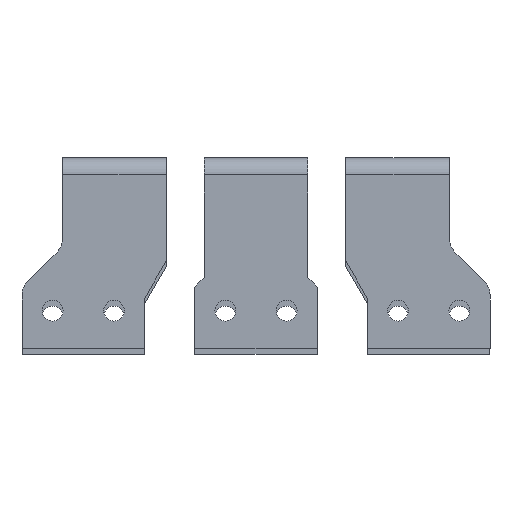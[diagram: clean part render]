
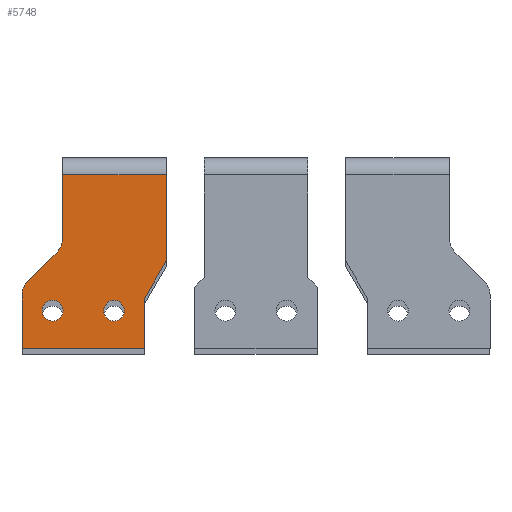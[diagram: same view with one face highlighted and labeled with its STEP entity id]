
A CAD part, front view. The second image highlights one B-rep face of the part: STEP entity #5748.
In plain terms, the highlighted planar face has unit normal (0, -1, 0).
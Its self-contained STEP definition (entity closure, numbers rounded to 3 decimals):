
#48 = EDGE_CURVE ( 'NONE', #7199, #2257, #6823, .T. ) ;
#96 = CARTESIAN_POINT ( 'NONE',  ( -102.5, -121.7, 29.75 ) ) ;
#197 = CARTESIAN_POINT ( 'NONE',  ( -42.5, -121.7, 29.75 ) ) ;
#243 = VERTEX_POINT ( 'NONE', #6584 ) ;
#252 = ORIENTED_EDGE ( 'NONE', *, *, #1837, .F. ) ;
#345 = LINE ( 'NONE', #2440, #909 ) ;
#625 = ORIENTED_EDGE ( 'NONE', *, *, #1152, .F. ) ;
#810 = CARTESIAN_POINT ( 'NONE',  ( -107.75, -121.7, -42.25 ) ) ;
#873 = CARTESIAN_POINT ( 'NONE',  ( -107.75, -121.7, -36.75 ) ) ;
#909 = VECTOR ( 'NONE', #1842, 1000. ) ;
#1083 = DIRECTION ( 'NONE',  ( -1., 0., 0. ) ) ;
#1126 = CARTESIAN_POINT ( 'NONE',  ( -107.75, -121.7, -47.75 ) ) ;
#1152 = EDGE_CURVE ( 'NONE', #2598, #4742, #1886, .T. ) ;
#1199 = CARTESIAN_POINT ( 'NONE',  ( -42.5, -121.7, -62.25 ) ) ;
#1247 = EDGE_CURVE ( 'NONE', #5120, #4547, #1875, .T. ) ;
#1291 = DIRECTION ( 'NONE',  ( 0., 0., 1. ) ) ;
#1373 = DIRECTION ( 'NONE',  ( 0., 0., -1. ) ) ;
#1393 = CARTESIAN_POINT ( 'NONE',  ( -105.429, -121.7, -11.179 ) ) ;
#1485 = DIRECTION ( 'NONE',  ( 0., 0., -1. ) ) ;
#1513 = LINE ( 'NONE', #7137, #5886 ) ;
#1645 = CARTESIAN_POINT ( 'NONE',  ( -42.5, -121.7, 32.75 ) ) ;
#1682 = ORIENTED_EDGE ( 'NONE', *, *, #5627, .F. ) ;
#1717 = VERTEX_POINT ( 'NONE', #3894 ) ;
#1739 = CARTESIAN_POINT ( 'NONE',  ( -75.25, -121.7, -42.25 ) ) ;
#1837 = EDGE_CURVE ( 'NONE', #2842, #2851, #2879, .T. ) ;
#1842 = DIRECTION ( 'NONE',  ( 0.707, 0., 0.707 ) ) ;
#1875 = CIRCLE ( 'NONE', #4664, 5.5 ) ;
#1886 = LINE ( 'NONE', #4127, #7096 ) ;
#1927 = CARTESIAN_POINT ( 'NONE',  ( -59., -121.7, -35.65 ) ) ;
#2000 = LINE ( 'NONE', #197, #3328 ) ;
#2034 = EDGE_CURVE ( 'NONE', #3508, #4742, #2000, .T. ) ;
#2044 = DIRECTION ( 'NONE',  ( 0., 0., -1. ) ) ;
#2064 = DIRECTION ( 'NONE',  ( 0., -1., 0. ) ) ;
#2135 = DIRECTION ( 'NONE',  ( 0., 0., -1. ) ) ;
#2182 = PLANE ( 'NONE',  #5953 ) ;
#2194 = AXIS2_PLACEMENT_3D ( 'NONE', #3341, #7451, #6233 ) ;
#2231 = DIRECTION ( 'NONE',  ( 0., -1., 0. ) ) ;
#2247 = ORIENTED_EDGE ( 'NONE', *, *, #3524, .F. ) ;
#2257 = VERTEX_POINT ( 'NONE', #6061 ) ;
#2440 = CARTESIAN_POINT ( 'NONE',  ( -124., -121.7, -29.75 ) ) ;
#2534 = EDGE_CURVE ( 'NONE', #2257, #243, #6371, .T. ) ;
#2598 = VERTEX_POINT ( 'NONE', #5932 ) ;
#2758 = LINE ( 'NONE', #7237, #6817 ) ;
#2842 = VERTEX_POINT ( 'NONE', #6140 ) ;
#2851 = VERTEX_POINT ( 'NONE', #7363 ) ;
#2879 = CIRCLE ( 'NONE', #4162, 5.5 ) ;
#2910 = VECTOR ( 'NONE', #2135, 1000. ) ;
#2919 = ORIENTED_EDGE ( 'NONE', *, *, #1247, .F. ) ;
#3070 = DIRECTION ( 'NONE',  ( -0.5, 0., -0.866 ) ) ;
#3091 = DIRECTION ( 'NONE',  ( -1., 0., 0. ) ) ;
#3118 = ORIENTED_EDGE ( 'NONE', *, *, #3522, .F. ) ;
#3138 = FACE_OUTER_BOUND ( 'NONE', #5629, .T. ) ;
#3258 = CARTESIAN_POINT ( 'NONE',  ( -114., -121.7, -33.892 ) ) ;
#3328 = VECTOR ( 'NONE', #3091, 1000. ) ;
#3330 = EDGE_CURVE ( 'NONE', #2598, #7344, #4818, .T. ) ;
#3341 = CARTESIAN_POINT ( 'NONE',  ( -112.5, -121.7, -4.108 ) ) ;
#3360 = LINE ( 'NONE', #6754, #2910 ) ;
#3378 = DIRECTION ( 'NONE',  ( 0., 1., 0. ) ) ;
#3422 = CARTESIAN_POINT ( 'NONE',  ( -59., -121.7, -62.25 ) ) ;
#3472 = ORIENTED_EDGE ( 'NONE', *, *, #7324, .F. ) ;
#3508 = VERTEX_POINT ( 'NONE', #5780 ) ;
#3522 = EDGE_CURVE ( 'NONE', #2851, #2842, #5082, .T. ) ;
#3524 = EDGE_CURVE ( 'NONE', #5880, #243, #6248, .T. ) ;
#3528 = VECTOR ( 'NONE', #1083, 1000. ) ;
#3638 = ORIENTED_EDGE ( 'NONE', *, *, #3330, .T. ) ;
#3818 = DIRECTION ( 'NONE',  ( 0., 0., 1. ) ) ;
#3894 = CARTESIAN_POINT ( 'NONE',  ( -47.5, -121.7, -15.731 ) ) ;
#3917 = DIRECTION ( 'NONE',  ( 0., 0., 1. ) ) ;
#3935 = VECTOR ( 'NONE', #4037, 1000. ) ;
#4037 = DIRECTION ( 'NONE',  ( 0., 0., -1. ) ) ;
#4127 = CARTESIAN_POINT ( 'NONE',  ( -102.5, -121.7, 66.761 ) ) ;
#4162 = AXIS2_PLACEMENT_3D ( 'NONE', #1739, #7479, #6974 ) ;
#4242 = ORIENTED_EDGE ( 'NONE', *, *, #5118, .F. ) ;
#4253 = ORIENTED_EDGE ( 'NONE', *, *, #48, .T. ) ;
#4303 = FACE_BOUND ( 'NONE', #6815, .T. ) ;
#4314 = CARTESIAN_POINT ( 'NONE',  ( -107.75, -121.7, -42.25 ) ) ;
#4547 = VERTEX_POINT ( 'NONE', #1126 ) ;
#4664 = AXIS2_PLACEMENT_3D ( 'NONE', #4314, #4898, #1485 ) ;
#4742 = VERTEX_POINT ( 'NONE', #96 ) ;
#4818 = CIRCLE ( 'NONE', #2194, 10. ) ;
#4898 = DIRECTION ( 'NONE',  ( 0., -1., 0. ) ) ;
#4942 = FACE_BOUND ( 'NONE', #5983, .T. ) ;
#5082 = CIRCLE ( 'NONE', #6438, 5.5 ) ;
#5118 = EDGE_CURVE ( 'NONE', #3508, #1717, #2758, .T. ) ;
#5120 = VERTEX_POINT ( 'NONE', #873 ) ;
#5255 = CARTESIAN_POINT ( 'NONE',  ( -121.071, -121.7, -26.821 ) ) ;
#5256 = CARTESIAN_POINT ( 'NONE',  ( -124., -121.7, 32.75 ) ) ;
#5366 = AXIS2_PLACEMENT_3D ( 'NONE', #3258, #7303, #3818 ) ;
#5401 = AXIS2_PLACEMENT_3D ( 'NONE', #810, #2064, #1373 ) ;
#5547 = EDGE_CURVE ( 'NONE', #4547, #5120, #7348, .T. ) ;
#5614 = ORIENTED_EDGE ( 'NONE', *, *, #2034, .T. ) ;
#5627 = EDGE_CURVE ( 'NONE', #6258, #5880, #3360, .T. ) ;
#5629 = EDGE_LOOP ( 'NONE', ( #5637, #4253, #6638, #2247, #1682, #3472, #4242, #5614, #625, #3638 ) ) ;
#5637 = ORIENTED_EDGE ( 'NONE', *, *, #6711, .F. ) ;
#5748 = ADVANCED_FACE ( 'NONE', ( #4942, #4303, #3138 ), #2182, .F. ) ;
#5780 = CARTESIAN_POINT ( 'NONE',  ( -47.5, -121.7, 29.75 ) ) ;
#5880 = VERTEX_POINT ( 'NONE', #3422 ) ;
#5886 = VECTOR ( 'NONE', #3070, 1000. ) ;
#5932 = CARTESIAN_POINT ( 'NONE',  ( -102.5, -121.7, -4.108 ) ) ;
#5953 = AXIS2_PLACEMENT_3D ( 'NONE', #1645, #3378, #3917 ) ;
#5983 = EDGE_LOOP ( 'NONE', ( #6089, #2919 ) ) ;
#6061 = CARTESIAN_POINT ( 'NONE',  ( -124., -121.7, -33.892 ) ) ;
#6089 = ORIENTED_EDGE ( 'NONE', *, *, #5547, .F. ) ;
#6140 = CARTESIAN_POINT ( 'NONE',  ( -75.25, -121.7, -36.75 ) ) ;
#6233 = DIRECTION ( 'NONE',  ( 0., 0., 1. ) ) ;
#6237 = DIRECTION ( 'NONE',  ( 0., 0., -1. ) ) ;
#6248 = LINE ( 'NONE', #1199, #3528 ) ;
#6258 = VERTEX_POINT ( 'NONE', #1927 ) ;
#6371 = LINE ( 'NONE', #5256, #3935 ) ;
#6438 = AXIS2_PLACEMENT_3D ( 'NONE', #6808, #2231, #6237 ) ;
#6584 = CARTESIAN_POINT ( 'NONE',  ( -124., -121.7, -62.25 ) ) ;
#6638 = ORIENTED_EDGE ( 'NONE', *, *, #2534, .T. ) ;
#6711 = EDGE_CURVE ( 'NONE', #7199, #7344, #345, .T. ) ;
#6754 = CARTESIAN_POINT ( 'NONE',  ( -59., -121.7, 32.75 ) ) ;
#6808 = CARTESIAN_POINT ( 'NONE',  ( -75.25, -121.7, -42.25 ) ) ;
#6815 = EDGE_LOOP ( 'NONE', ( #3118, #252 ) ) ;
#6817 = VECTOR ( 'NONE', #2044, 1000. ) ;
#6823 = CIRCLE ( 'NONE', #5366, 10. ) ;
#6974 = DIRECTION ( 'NONE',  ( 0., 0., -1. ) ) ;
#7096 = VECTOR ( 'NONE', #1291, 1000. ) ;
#7137 = CARTESIAN_POINT ( 'NONE',  ( -59., -121.7, -35.65 ) ) ;
#7199 = VERTEX_POINT ( 'NONE', #5255 ) ;
#7237 = CARTESIAN_POINT ( 'NONE',  ( -47.5, -121.7, 32.75 ) ) ;
#7303 = DIRECTION ( 'NONE',  ( 0., -1., 0. ) ) ;
#7324 = EDGE_CURVE ( 'NONE', #1717, #6258, #1513, .T. ) ;
#7344 = VERTEX_POINT ( 'NONE', #1393 ) ;
#7348 = CIRCLE ( 'NONE', #5401, 5.5 ) ;
#7363 = CARTESIAN_POINT ( 'NONE',  ( -75.25, -121.7, -47.75 ) ) ;
#7451 = DIRECTION ( 'NONE',  ( 0., 1., 0. ) ) ;
#7479 = DIRECTION ( 'NONE',  ( 0., -1., 0. ) ) ;
